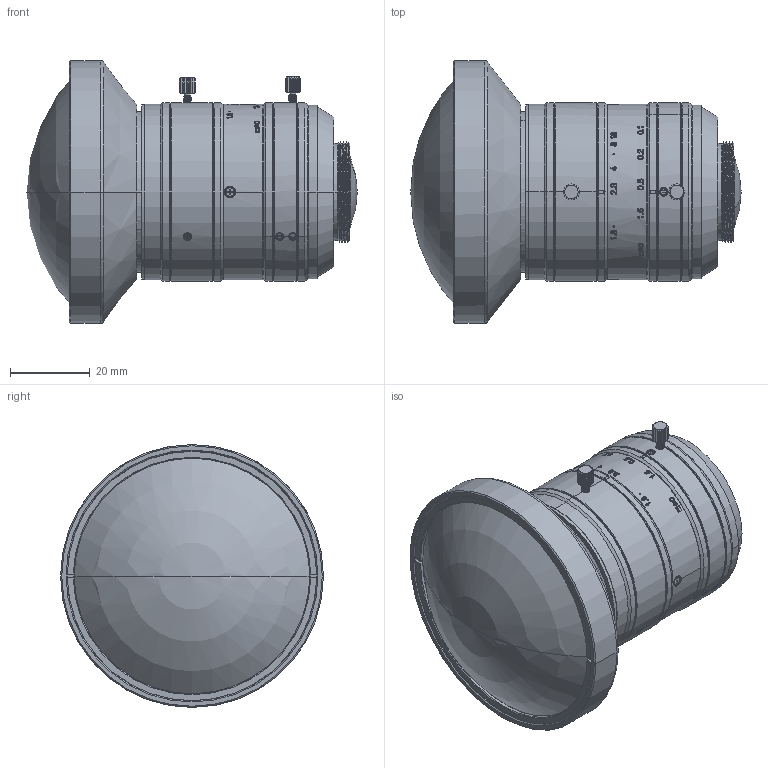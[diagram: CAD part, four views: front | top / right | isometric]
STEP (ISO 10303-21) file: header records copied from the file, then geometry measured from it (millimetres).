
FILE_DESCRIPTION((''),'2;1');
FILE_NAME('ASM0025_ASM','2020-11-26T11:53:41',('dihaoping'),(''),'CREO PARAMETRIC BY PTC INC, 2017260','CREO PARAMETRIC BY PTC INC, 2017260','');
FILE_SCHEMA(('CONFIG_CONTROL_DESIGN'));
Length unit declared in the file: millimetre
Products named in the file (29): MSBR-91_1_1_2_1_1; MSBR-90_1_1_2_1_1; MSBR-89_1_1_2_1_1; MSBR-88_1_1_2_1_1; MSBR-87_1_1_2_1_1; MSBR-41_1_1_2_1_1; MSBR-40_1_1_2_1_1; MSBR-39_1_1_2_1_1; MSBR-38_1_1_2_1_1; MSBR-37_1_1_2_1_1; MSBR-36_1_1_2_1_1; MSBR-35_1_1_2_1_1; MSBR-34_1_1_2_1_1; MSBR-33_1_1_2_1_1; MSBR-20_1_1_2_1_1; MSBR-19_1_1_2_1_1; MSBR-18_1_1_2_1_1; MSBR-17_1_1_2_1_1; MSBR-9_1_1_2_1_1; MSBR-5_1_1_2_1_1; MSBR-4_1_1_2_1_1; MSBR-2_1_1_2_1_1; KF0618M_ASM_ASM_ASM_1_ASM_1_1_ASM; TIANCHONGWU_2_1_2_1_1_1; TIANCHONGWU_2_1_2_2_1_1; TIANCHONGWU_2_1_2_ASM_1_1_ASM; KF06MM-12MPE_ASM_2_1_ASM_1_1_ASM; ASM0009_ASM_1_1_ASM; ASM0025_ASM
Assembly tree (28 placements, depth 5):
  ASM0025_ASM
    ASM0009_ASM_1_1_ASM
      KF06MM-12MPE_ASM_2_1_ASM_1_1_ASM
        KF0618M_ASM_ASM_ASM_1_ASM_1_1_ASM
          MSBR-91_1_1_2_1_1
          MSBR-90_1_1_2_1_1
          MSBR-89_1_1_2_1_1
          MSBR-88_1_1_2_1_1
          MSBR-87_1_1_2_1_1
          MSBR-41_1_1_2_1_1
          MSBR-40_1_1_2_1_1
          MSBR-39_1_1_2_1_1
          MSBR-38_1_1_2_1_1
          MSBR-37_1_1_2_1_1
          MSBR-36_1_1_2_1_1
          MSBR-35_1_1_2_1_1
          MSBR-34_1_1_2_1_1
          MSBR-33_1_1_2_1_1
          MSBR-20_1_1_2_1_1
          MSBR-19_1_1_2_1_1
          MSBR-18_1_1_2_1_1
          MSBR-17_1_1_2_1_1
          MSBR-9_1_1_2_1_1
          MSBR-5_1_1_2_1_1
          MSBR-4_1_1_2_1_1
          MSBR-2_1_1_2_1_1
        TIANCHONGWU_2_1_2_ASM_1_1_ASM
          TIANCHONGWU_2_1_2_1_1_1
          TIANCHONGWU_2_1_2_2_1_1
Bounding box: 82.96 x 66 x 66 mm (x, y, z)
Volume: 171879.2 mm3; surface area: 67654.7 mm2
Topology: 22 solids, 22 shells, 1758 faces, 4668 edges, 3053 vertices
Faces by surface type: bspline 576, cylinder 483, plane 389, cone 262, torus 24, sphere 14, extrusion 10
Entity records: 99919 total; most frequent: CARTESIAN_POINT 59758, ORIENTED_EDGE 9308, DIRECTION 6543, EDGE_CURVE 4654, VERTEX_POINT 3053, AXIS2_PLACEMENT_3D 2443, EDGE_LOOP 1913, B_SPLINE_CURVE_WITH_KNOTS 1830
